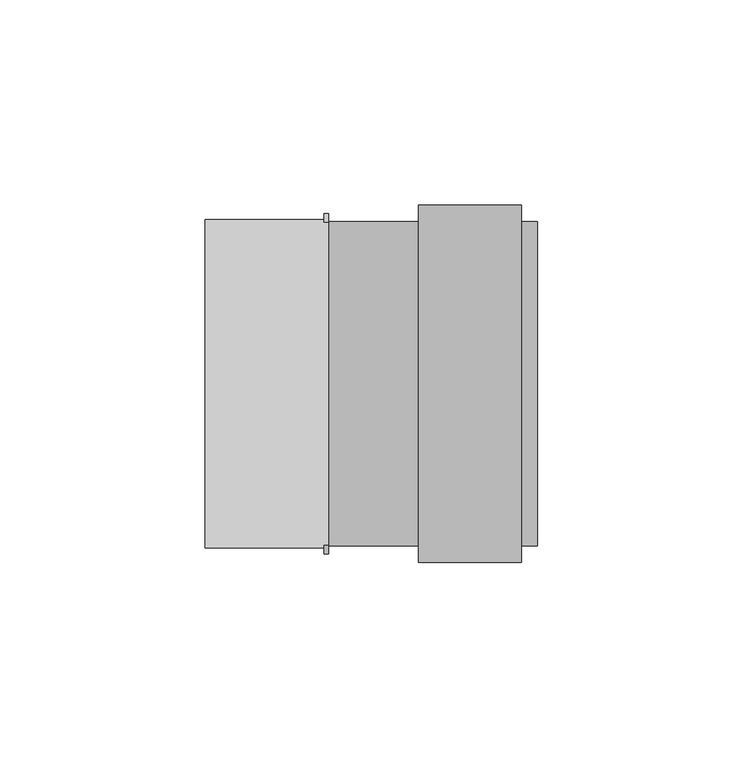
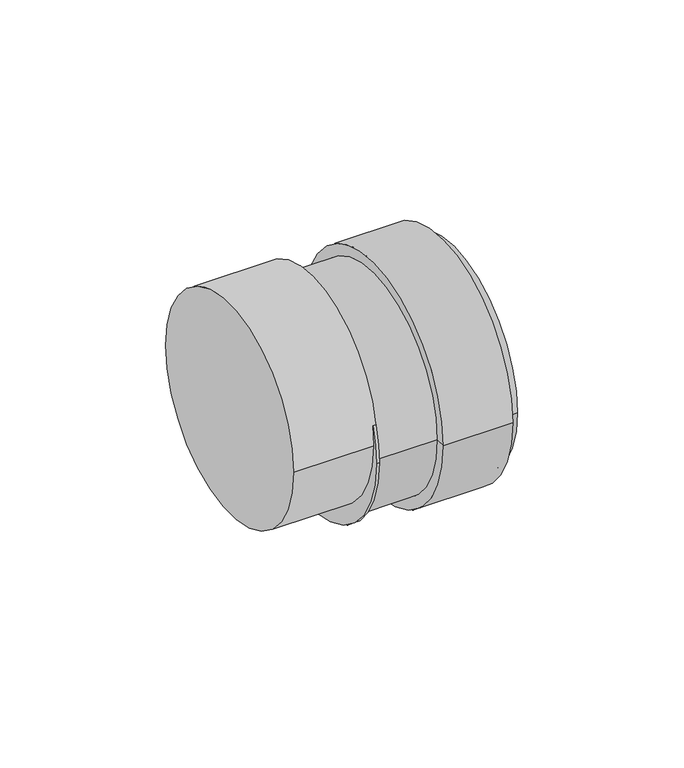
"""IFC4 building model written with IfcOpenShell, lengths in millimetres: duct fitting geometry, NLRS_57_DUF_UN_connection piece round_M&G : ø75."""

from ifc_helpers import new_model, si_unit, frame, origin, place, context, project, spatial, polyline, circle_curve, source, transform, mapped, element, save
from ifc_brep_helpers import plane_surface, cylinder_surface, revolved_surface, advanced_brep


def duct_fitting_84124fbc(model_context):
    return source(origin(), model_context, "Body", "AdvancedBrep", [
        advanced_brep(
        [(0.0, -39.5, -6.0), (0.0, 39.5, -6.0), (51.0, -39.5, -6.0), (51.0, 39.5, -6.0), (51.0, -37.5, -6.0), (51.0, 37.5, -6.0), (22.0, -39.5, -6.0), (22.0, 39.5, -6.0), (47.0, 39.5, -6.0), (47.0, -39.5, -6.0), (1.0, 37.5, -6.0), (1.0, -37.5, -6.0), (47.0, -43.5, -6.0), (47.0, 43.5, -6.0), (22.0, -43.5, -6.0), (22.0, 43.5, -6.0)],
        [
            (0, 1, circle_curve(frame((0.0, 0.0, -6.0), z_axis=(-1.0, 0.0, 0.0), x_axis=(0.0, 1.0, 0.0)), 39.5)),
            (1, 0, circle_curve(frame((0.0, 0.0, -6.0), z_axis=(-1.0, 0.0, 0.0), x_axis=(0.0, 1.0, 0.0)), 39.5)),
            (2, 3, circle_curve(frame((51.0, 0.0, -6.0), z_axis=(1.0, 0.0, 0.0), x_axis=(0.0, 1.0, 0.0)), 39.5)),
            (3, 2, circle_curve(frame((51.0, 0.0, -6.0), z_axis=(1.0, 0.0, 0.0), x_axis=(0.0, 1.0, 0.0)), 39.5)),
            (4, 5, circle_curve(frame((51.0, 0.0, -6.0), z_axis=(-1.0, 0.0, 0.0), x_axis=(0.0, -1.0, 0.0)), 37.5)),
            (5, 4, circle_curve(frame((51.0, 0.0, -6.0), z_axis=(-1.0, 0.0, 0.0), x_axis=(0.0, -1.0, 0.0)), 37.5)),
            (0, 6),
            (6, 7, circle_curve(frame((22.0, 0.0, -6.0), z_axis=(-1.0, 0.0, 0.0), x_axis=(0.0, 1.0, 0.0)), 39.5)),
            (7, 1),
            (3, 8),
            (8, 9, circle_curve(frame((47.0, 0.0, -6.0), z_axis=(1.0, 0.0, 0.0), x_axis=(0.0, 1.0, 0.0)), 39.5)),
            (9, 2),
            (7, 6, circle_curve(frame((22.0, 0.0, -6.0), z_axis=(-1.0, 0.0, 0.0), x_axis=(0.0, 1.0, 0.0)), 39.5)),
            (9, 8, circle_curve(frame((47.0, 0.0, -6.0), z_axis=(1.0, 0.0, 0.0), x_axis=(0.0, 1.0, 0.0)), 39.5)),
            (10, 11, circle_curve(frame((1.0, 0.0, -6.0), z_axis=(1.0, 0.0, 0.0), x_axis=(0.0, -1.0, 0.0)), 37.5)),
            (11, 10, circle_curve(frame((1.0, 0.0, -6.0), z_axis=(1.0, 0.0, 0.0), x_axis=(0.0, -1.0, 0.0)), 37.5)),
            (10, 5),
            (4, 11),
            (12, 13, circle_curve(frame((47.0, 0.0, -6.0), z_axis=(1.0, 0.0, 0.0), x_axis=(0.0, 1.0, 0.0)), 43.5)),
            (13, 8),
            (9, 12),
            (13, 12, circle_curve(frame((47.0, 0.0, -6.0), z_axis=(1.0, 0.0, 0.0), x_axis=(0.0, 1.0, 0.0)), 43.5)),
            (12, 14),
            (14, 15, circle_curve(frame((22.0, 0.0, -6.0), z_axis=(1.0, 0.0, 0.0), x_axis=(0.0, 1.0, 0.0)), 43.5)),
            (15, 13),
            (15, 14, circle_curve(frame((22.0, 0.0, -6.0), z_axis=(1.0, 0.0, 0.0), x_axis=(0.0, 1.0, 0.0)), 43.5)),
            (14, 6),
            (7, 15),
        ],
        [
            plane_surface(frame((0.0, 0.0, -6.0), z_axis=(-1.0, 0.0, 0.0), x_axis=(0.0, 0.0, 1.0))),
            plane_surface(frame((51.0, 0.0, -6.0), z_axis=(1.0, 0.0, 0.0), x_axis=(0.0, 0.0, 1.0))),
            cylinder_surface(frame((0.0, 0.0, -6.0), z_axis=(-1.0, 0.0, 0.0), x_axis=(0.0, 1.0, 0.0)), 39.5),
            plane_surface(frame((1.0, 0.0, -6.0), z_axis=(1.0, 0.0, 0.0), x_axis=(0.0, 0.0, 1.0))),
            revolved_surface(polyline([(51.0, -37.5, -6.0), (1.0, -37.5, -6.0)]), (51.0, 0.0, -6.0), (1.0, 0.0, 0.0)),
            plane_surface(frame((47.0, 0.0, -6.0), z_axis=(1.0, 0.0, 0.0), x_axis=(0.0, 1.0, 0.0))),
            cylinder_surface(frame((15.5, 0.0, -6.0), z_axis=(-1.0, 0.0, 0.0), x_axis=(0.0, 1.0, 0.0)), 43.5),
            plane_surface(frame((22.0, 0.0, -6.0), z_axis=(-1.0, 0.0, 0.0), x_axis=(0.0, 1.0, 0.0))),
        ],
        [
            (0, [[1, 2]]),
            (1, [[3, 4], [5, 6]]),
            (2, [[-1, 7, 8, 9]]),
            (2, [[-4, 10, 11, 12]]),
            (2, [[-2, -9, 13, -7]]),
            (2, [[-3, -12, 14, -10]]),
            (3, [[15, 16]]),
            (4, [[-15, 17, -5, 18]]),
            (4, [[-16, -18, -6, -17]]),
            (5, [[19, 20, -14, 21]]),
            (5, [[-20, 22, -21, -11]]),
            (6, [[-19, 23, 24, 25]]),
            (6, [[-22, -25, 26, -23]]),
            (7, [[-24, 27, -13, 28]]),
            (7, [[-26, -28, -8, -27]]),
        ],
    ),
        advanced_brep(
        [(-1.0, 41.5, -6.0), (-1.0, -41.5, -6.0), (-1.0, -39.3489497, 7.1875), (-1.0, -40.0, 0.0), (-1.0, 40.0, 0.0), (-1.0, 39.3489497, 7.1875), (0.0, -41.5, -6.0), (0.0, 41.5, -6.0), (0.0, 39.3489497, 7.1875), (0.0, -39.3489497, 7.1875), (-30.0, 40.0, 0.0), (-30.0, -40.0, 0.0)],
        [
            (0, 1, circle_curve(frame((-1.0, 0.0, -6.0), z_axis=(-1.0, 0.0, 0.0), x_axis=(0.0, 1.0, 0.0)), 41.5)),
            (1, 2, circle_curve(frame((-1.0, 0.0, -6.0), z_axis=(-1.0, 0.0, 0.0), x_axis=(0.0, 1.0, 0.0)), 41.5)),
            (2, 3, circle_curve(frame((-1.0, 0.0, 0.0), z_axis=(1.0, 0.0, 0.0), x_axis=(0.0, -1.0, 0.0)), 40.0)),
            (3, 4, circle_curve(frame((-1.0, 0.0, 0.0), z_axis=(1.0, 0.0, 0.0), x_axis=(0.0, -1.0, 0.0)), 40.0)),
            (4, 5, circle_curve(frame((-1.0, 0.0, 0.0), z_axis=(1.0, 0.0, 0.0), x_axis=(0.0, -1.0, 0.0)), 40.0)),
            (5, 0, circle_curve(frame((-1.0, 0.0, -6.0), z_axis=(-1.0, 0.0, 0.0), x_axis=(0.0, 1.0, 0.0)), 41.5)),
            (6, 7, circle_curve(frame((0.0, 0.0, -6.0), z_axis=(1.0, 0.0, 0.0), x_axis=(0.0, 1.0, 0.0)), 41.5)),
            (7, 8, circle_curve(frame((0.0, 0.0, -6.0), z_axis=(1.0, 0.0, 0.0), x_axis=(0.0, 1.0, 0.0)), 41.5)),
            (8, 9, circle_curve(frame((0.0, 0.0, 0.0), z_axis=(1.0, 0.0, 0.0), x_axis=(0.0, -1.0, 0.0)), 40.0)),
            (9, 6, circle_curve(frame((0.0, 0.0, -6.0), z_axis=(1.0, 0.0, 0.0), x_axis=(0.0, 1.0, 0.0)), 41.5)),
            (0, 7),
            (6, 1),
            (5, 8),
            (9, 2),
            (10, 11, circle_curve(frame((-30.0, 0.0, 0.0), z_axis=(-1.0, 0.0, 0.0), x_axis=(0.0, -1.0, 0.0)), 40.0)),
            (11, 10, circle_curve(frame((-30.0, 0.0, 0.0), z_axis=(-1.0, 0.0, 0.0), x_axis=(0.0, -1.0, 0.0)), 40.0)),
            (11, 3),
            (4, 10),
        ],
        [
            plane_surface(frame((-1.0, 41.5, -6.0), z_axis=(-1.0, 0.0, 0.0), x_axis=(0.0, 0.0, -1.0))),
            plane_surface(frame((0.0, 41.5, -6.0), z_axis=(1.0, 0.0, 0.0), x_axis=(0.0, 0.0, 1.0))),
            cylinder_surface(frame((-1.0, 0.0, -6.0), z_axis=(1.0, 0.0, 0.0), x_axis=(0.0, 1.0, 0.0)), 41.5),
            plane_surface(frame((-30.0, 0.0, 0.0), z_axis=(-1.0, 0.0, 0.0), x_axis=(0.0, 0.0, 1.0))),
            cylinder_surface(frame((0.0, 0.0, 0.0), z_axis=(1.0, 0.0, 0.0), x_axis=(0.0, -1.0, 0.0)), 40.0),
        ],
        [
            (0, [[1, 2, 3, 4, 5, 6]]),
            (1, [[7, 8, 9, 10]]),
            (2, [[-1, 11, -7, 12]]),
            (2, [[-11, -6, 13, -8]]),
            (2, [[-12, -10, 14, -2]]),
            (3, [[15, 16]]),
            (4, [[-16, 17, -3, -14, -9, -13, -5, 18]]),
            (4, [[-15, -18, -4, -17]]),
        ],
    ),
    ])


if __name__ == "__main__":
    model = new_model("IFC4")
    model_context = context("Model", 3, world=origin())
    ifc_project = project(units=[si_unit("LENGTHUNIT", "METRE", prefix="MILLI")], contexts=[model_context])
    site = spatial("IfcSite", under=ifc_project)
    building = spatial("IfcBuilding", under=site)
    placement = place(None, origin())
    duct_fitting_shape = duct_fitting_84124fbc(model_context)
    element("IfcDuctFitting", 1, ObjectType="NLRS_57_DUF_UN_connection piece round_M&G : ø75", at=placement, inside=building, context=model_context, shape_type="MappedRepresentation", body=[
        mapped(duct_fitting_shape, transform((0.0, 0.0, 0.0), x_axis=(1.0, 0.0, 0.0), y_axis=(0.0, 1.0, 0.0), z_axis=(0.0, 0.0, 1.0))),
    ])
    save(model, "model.ifc")
